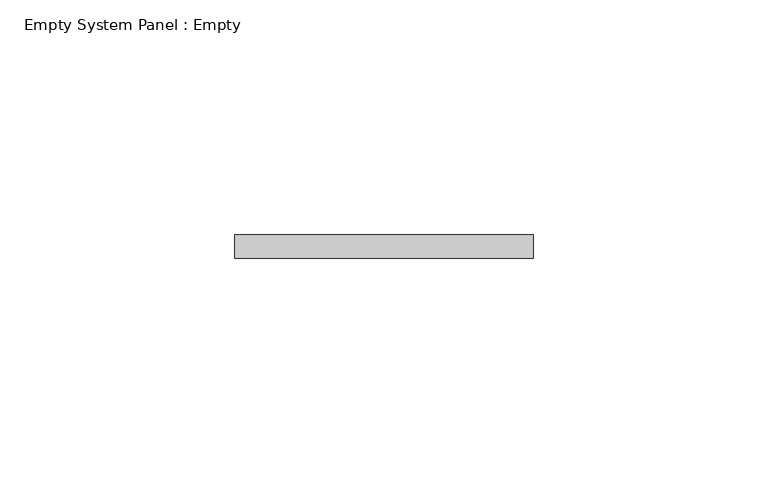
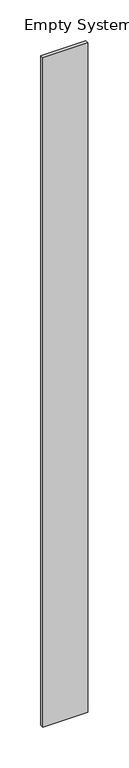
"""IFC4 building model written with IfcOpenShell, lengths in millimetres: plate geometry, Empty System Panel : Empty."""

import ifcopenshell
import ifcopenshell.guid

model = None  # the IFC model being written
_history = None  # IfcOwnerHistory: only IFC2X3 demands one
_inside = {}  # id of a spatial element -> (the spatial element, [elements in it])
_under = {}  # id of a project, library or spatial element -> (it, [spatial elements below it])
_declared = {}  # id of a project -> (the project, [libraries it declares])
_typed = {}  # id of a type object -> (the type object, [elements of that type])
_made_of = {}  # id of a material, layer set ... -> (it, [elements and type objects made of it])


def new_model(schema):
    """Start an empty IFC model of exactly this schema.

    Asked for "IFC4X3", IfcOpenShell would pick the latest addendum, in which some entities
    have other attributes; the version numbers below select the first issue.
    IFC2X3 requires an IfcOwnerHistory on every rooted entity: one is made here for all.
    """
    global model, _history
    if schema == "IFC4X3":
        model = ifcopenshell.file(schema_version=(4, 3, 0, 0))
    else:
        model = ifcopenshell.file(schema=schema)
    _inside.clear()
    _under.clear()
    _declared.clear()
    _typed.clear()
    _made_of.clear()
    _history = None
    if model.schema == "IFC2X3":
        org = make("IfcOrganization", Name="unknown")
        user = make(
            "IfcPersonAndOrganization",
            ThePerson=make("IfcPerson", FamilyName="unknown"),
            TheOrganization=org,
        )
        app = make(
            "IfcApplication",
            ApplicationDeveloper=org,
            Version="unknown",
            ApplicationFullName="unknown",
            ApplicationIdentifier="unknown",
        )
        _history = make(
            "IfcOwnerHistory",
            OwningUser=user,
            OwningApplication=app,
            ChangeAction="ADDED",
            CreationDate=0,
        )
    return model


def make(cls, **values):
    """One entity of the class cls with the attributes given. An attribute that is None is left unset."""
    return model.create_entity(
        cls, **{name: value for name, value in values.items() if value is not None}
    )


def rooted(cls, **values):
    """An entity with a GlobalId (a new one), such as an element, a storey or a relation."""
    return make(cls, GlobalId=ifcopenshell.guid.new(), OwnerHistory=_history, **values)


def si_unit(unit_type, name, prefix=None):
    """IfcSIUnit, for example si_unit("LENGTHUNIT", "METRE", prefix="MILLI")."""
    return make("IfcSIUnit", UnitType=unit_type, Prefix=prefix, Name=name)


def assignment(units):
    """IfcUnitAssignment: the units of a project."""
    return None if units is None else make("IfcUnitAssignment", Units=units)


def point(xyz):
    """IfcCartesianPoint."""
    return None if xyz is None else make("IfcCartesianPoint", Coordinates=xyz)


def direction(xyz):
    """IfcDirection."""
    return None if xyz is None else make("IfcDirection", DirectionRatios=xyz)


def frame(location, z_axis=None, x_axis=None):
    """IfcAxis2Placement3D, a coordinate frame: its origin and axes. An axis left out is left unset."""
    return make(
        "IfcAxis2Placement3D",
        Location=point(location),
        Axis=direction(z_axis),
        RefDirection=direction(x_axis),
    )


def origin():
    """The frame at (0, 0, 0) with its axes left unset."""
    return frame((0.0, 0.0, 0.0))


def origin_with_axes():
    """The frame at (0, 0, 0) with the z axis (0, 0, 1) and the x axis (1, 0, 0) written out."""
    return frame((0.0, 0.0, 0.0), z_axis=(0.0, 0.0, 1.0), x_axis=(1.0, 0.0, 0.0))


def place(relative_to, where):
    """IfcLocalPlacement: puts the frame where relative to a parent placement (None: the world)."""
    return make(
        "IfcLocalPlacement", PlacementRelTo=relative_to, RelativePlacement=where
    )


def context(
    kind, dimensions, precision=None, world=None, true_north=None, identifier=None
):
    """IfcGeometricRepresentationContext, for example the 3D "Model" context."""
    return make(
        "IfcGeometricRepresentationContext",
        ContextIdentifier=identifier,
        ContextType=kind,
        CoordinateSpaceDimension=dimensions,
        Precision=precision,
        WorldCoordinateSystem=world,
        TrueNorth=true_north,
    )


def project(units=None, contexts=None):
    """IfcProject with its units and contexts."""
    return rooted(
        "IfcProject",
        Name="project",
        RepresentationContexts=contexts,
        UnitsInContext=assignment(units),
    )


def spatial(cls, under=None, at=None, **own):
    """A site, building, storey or space (cls), placed at a placement, below another one or the project."""
    s = rooted(cls, ObjectPlacement=at, **own)
    if under is not None:
        _under.setdefault(under.id(), (under, []))[1].append(s)
    return s


def polyline(points):
    """IfcPolyline through the points."""
    return make("IfcPolyline", Points=[point(p) for p in points])


def outline(outer, holes=None, kind="AREA"):
    """IfcArbitraryClosedProfileDef: a profile drawn as a closed curve; with holes, ...WithVoids."""
    if holes is None:
        return make("IfcArbitraryClosedProfileDef", ProfileType=kind, OuterCurve=outer)
    return make(
        "IfcArbitraryProfileDefWithVoids",
        ProfileType=kind,
        OuterCurve=outer,
        InnerCurves=holes,
    )


def extrude(swept, where, along, depth):
    """IfcExtrudedAreaSolid: the profile swept, set in the frame where, extruded along a direction by depth."""
    return make(
        "IfcExtrudedAreaSolid",
        SweptArea=swept,
        Position=where,
        ExtrudedDirection=direction(along),
        Depth=depth,
    )


def shape(context_of_items, identifier, shape_type, items):
    """IfcShapeRepresentation: the items that make up one representation, for example the "Body"."""
    return make(
        "IfcShapeRepresentation",
        ContextOfItems=context_of_items,
        RepresentationIdentifier=identifier,
        RepresentationType=shape_type,
        Items=items,
    )


def source(mapping_origin, context_of_items, identifier, shape_type, items):
    """IfcRepresentationMap: a shape defined once, which mapped items show again and again."""
    return make(
        "IfcRepresentationMap",
        MappingOrigin=mapping_origin,
        MappedRepresentation=shape(context_of_items, identifier, shape_type, items),
    )


def transform(
    local_origin,
    x_axis=None,
    y_axis=None,
    z_axis=None,
    scale=None,
    scale2=None,
    scale3=None,
    uniform=True,
):
    """IfcCartesianTransformationOperator3D, or its non-uniform kind. x_axis, y_axis, z_axis: its Axis1, 2, 3."""
    if uniform:
        return make(
            "IfcCartesianTransformationOperator3D",
            Axis1=direction(x_axis),
            Axis2=direction(y_axis),
            LocalOrigin=point(local_origin),
            Scale=scale,
            Axis3=direction(z_axis),
        )
    return make(
        "IfcCartesianTransformationOperator3DnonUniform",
        Axis1=direction(x_axis),
        Axis2=direction(y_axis),
        LocalOrigin=point(local_origin),
        Scale=scale,
        Axis3=direction(z_axis),
        Scale2=scale2,
        Scale3=scale3,
    )


def mapped(mapping_source, mapping_target):
    """IfcMappedItem: shows the shape of a source again, moved by a transform."""
    return make(
        "IfcMappedItem", MappingSource=mapping_source, MappingTarget=mapping_target
    )


def made_of(thing, what):
    """Note that an element or type object is made of a material, layer set ...; save() writes the relation."""
    if what is not None:
        _made_of.setdefault(what.id(), (what, []))[1].append(thing)
    return thing


def element(
    cls,
    number,
    at=None,
    inside=None,
    cuts=None,
    type_object=None,
    material=None,
    context=None,
    identifier="Body",
    shape_type=None,
    held_by="IfcProductDefinitionShape",
    body=None,
    shapes=None,
    **own,
):
    """One element of the class cls, such as IfcWall. Its Tag is "e" and its number.

    at: its placement. inside: the storey or other place that contains it. cuts: it is an
    opening in that element (IfcRelVoidsElement). A single representation is given by context,
    identifier, shape_type and body (its items); several are given by shapes. held_by: the class
    of the entity that holds the representations. save() writes the other relations.
    """
    e = rooted(cls, Tag="e%d" % number, ObjectPlacement=at, **own)
    if body is not None:
        shapes = [shape(context, identifier, shape_type, body)]
    if shapes is not None:
        e.Representation = make(held_by, Representations=shapes)
    if inside is not None:
        _inside.setdefault(inside.id(), (inside, []))[1].append(e)
    if cuts is not None:
        rooted(
            "IfcRelVoidsElement", RelatingBuildingElement=cuts, RelatedOpeningElement=e
        )
    if type_object is not None:
        _typed.setdefault(type_object.id(), (type_object, []))[1].append(e)
    return made_of(e, material)


def aggregate(whole, parts):
    """IfcRelAggregates: a whole, such as a stair, and the parts it consists of."""
    return rooted("IfcRelAggregates", RelatingObject=whole, RelatedObjects=parts)


def save(model, path):
    """Write the relations noted so far, then the file.

    IfcRelAggregates (storeys below a building ...), IfcRelContainedInSpatialStructure (elements
    in a storey), IfcRelDefinesByType, IfcRelAssociatesMaterial and IfcRelDeclares: one each for
    every whole, place, type object, material and project.
    """
    for whole, parts in _under.values():
        aggregate(whole, parts)
    for where, things in _inside.values():
        rooted(
            "IfcRelContainedInSpatialStructure",
            RelatedElements=things,
            RelatingStructure=where,
        )
    for kind, things in _typed.values():
        rooted("IfcRelDefinesByType", RelatedObjects=things, RelatingType=kind)
    for what, things in _made_of.values():
        rooted("IfcRelAssociatesMaterial", RelatedObjects=things, RelatingMaterial=what)
    for by, libraries in _declared.values():
        rooted("IfcRelDeclares", RelatingContext=by, RelatedDefinitions=libraries)
    model.write(path)


def empty_system_panel_empty_1ebb3388(model_context):
    return source(origin(), model_context, "Body", "SweptSolid", [
        extrude(outline(polyline([(31.780725, 97.5), (-31.780725, 97.5), (-31.780725, 102.5), (31.780725, 102.5), (31.780725, 97.5)])), origin_with_axes(), (0.0, 0.0, 1.0), 1000.0),
    ])


if __name__ == "__main__":
    model = new_model("IFC4")
    model_context = context("Model", 3, world=origin())
    ifc_project = project(units=[si_unit("LENGTHUNIT", "METRE", prefix="MILLI")], contexts=[model_context])
    site = spatial("IfcSite", under=ifc_project)
    building = spatial("IfcBuilding", under=site)
    placement = place(None, origin())
    empty_system_panel_empty_shape = empty_system_panel_empty_1ebb3388(model_context)
    element("IfcPlate", 1, ObjectType="Empty System Panel : Empty", at=placement, inside=building, context=model_context, shape_type="MappedRepresentation", body=[
        mapped(empty_system_panel_empty_shape, transform((0.0, 0.0, 0.0), x_axis=(1.0, 0.0, 0.0), y_axis=(0.0, 1.0, 0.0), z_axis=(0.0, 0.0, 1.0))),
    ])
    save(model, "model.ifc")
